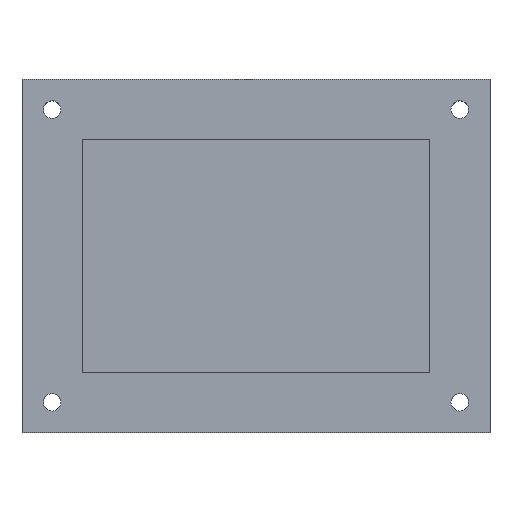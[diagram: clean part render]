
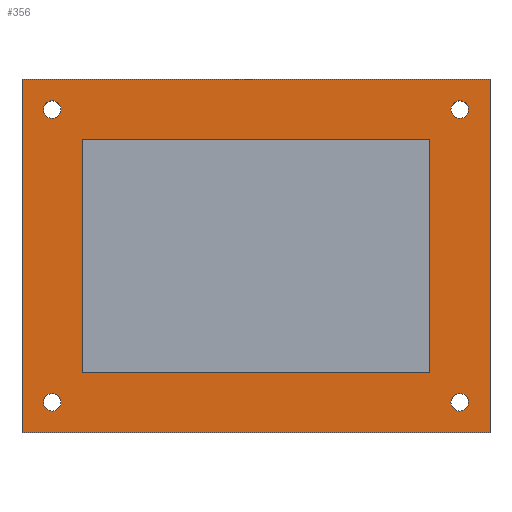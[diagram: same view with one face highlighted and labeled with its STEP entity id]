
A CAD part, top view. The second image highlights one B-rep face of the part: STEP entity #356.
In plain terms, the highlighted planar face has unit normal (0, 0, 1).
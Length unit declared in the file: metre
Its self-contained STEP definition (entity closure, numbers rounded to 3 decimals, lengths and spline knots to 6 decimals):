
#13=CIRCLE('',#381,0.00145);
#15=CIRCLE('',#384,0.00145);
#17=CIRCLE('',#387,0.00145);
#19=CIRCLE('',#390,0.00145);
#80=ORIENTED_EDGE('',*,*,#146,.F.);
#81=ORIENTED_EDGE('',*,*,#122,.T.);
#82=ORIENTED_EDGE('',*,*,#149,.T.);
#83=ORIENTED_EDGE('',*,*,#151,.F.);
#84=ORIENTED_EDGE('',*,*,#141,.F.);
#85=ORIENTED_EDGE('',*,*,#139,.F.);
#86=ORIENTED_EDGE('',*,*,#137,.F.);
#87=ORIENTED_EDGE('',*,*,#135,.F.);
#88=ORIENTED_EDGE('',*,*,#130,.T.);
#89=ORIENTED_EDGE('',*,*,#133,.F.);
#90=ORIENTED_EDGE('',*,*,#114,.F.);
#91=ORIENTED_EDGE('',*,*,#143,.T.);
#114=EDGE_CURVE('',#158,#159,#190,.T.);
#122=EDGE_CURVE('',#167,#166,#198,.T.);
#130=EDGE_CURVE('',#175,#174,#206,.T.);
#133=EDGE_CURVE('',#159,#174,#209,.T.);
#135=EDGE_CURVE('',#177,#177,#13,.T.);
#137=EDGE_CURVE('',#179,#179,#15,.T.);
#139=EDGE_CURVE('',#181,#181,#17,.T.);
#141=EDGE_CURVE('',#183,#183,#19,.T.);
#143=EDGE_CURVE('',#158,#175,#211,.T.);
#146=EDGE_CURVE('',#167,#184,#214,.T.);
#149=EDGE_CURVE('',#166,#187,#217,.T.);
#151=EDGE_CURVE('',#184,#187,#219,.T.);
#158=VERTEX_POINT('',#500);
#159=VERTEX_POINT('',#502);
#166=VERTEX_POINT('',#517);
#167=VERTEX_POINT('',#519);
#174=VERTEX_POINT('',#534);
#175=VERTEX_POINT('',#536);
#177=VERTEX_POINT('',#545);
#179=VERTEX_POINT('',#550);
#181=VERTEX_POINT('',#555);
#183=VERTEX_POINT('',#560);
#184=VERTEX_POINT('',#567);
#187=VERTEX_POINT('',#575);
#190=LINE('',#501,#226);
#198=LINE('',#518,#234);
#206=LINE('',#535,#242);
#209=LINE('',#540,#245);
#211=LINE('',#563,#247);
#214=LINE('',#570,#250);
#217=LINE('',#576,#253);
#219=LINE('',#579,#255);
#226=VECTOR('',#408,1.);
#234=VECTOR('',#418,1.);
#242=VECTOR('',#428,1.);
#245=VECTOR('',#433,1.);
#247=VECTOR('',#461,1.);
#250=VECTOR('',#468,1.);
#253=VECTOR('',#473,1.);
#255=VECTOR('',#477,1.);
#283=EDGE_LOOP('',(#80,#81,#82,#83));
#284=EDGE_LOOP('',(#84));
#285=EDGE_LOOP('',(#85));
#286=EDGE_LOOP('',(#86));
#287=EDGE_LOOP('',(#87));
#288=EDGE_LOOP('',(#88,#89,#90,#91));
#317=FACE_BOUND('',#283,.T.);
#318=FACE_BOUND('',#284,.T.);
#319=FACE_BOUND('',#285,.T.);
#320=FACE_BOUND('',#286,.T.);
#321=FACE_BOUND('',#287,.T.);
#322=FACE_BOUND('',#288,.T.);
#337=PLANE('',#396);
#356=ADVANCED_FACE('',(#317,#318,#319,#320,#321,#322),#337,.T.);
#381=AXIS2_PLACEMENT_3D('',#544,#438,#439);
#384=AXIS2_PLACEMENT_3D('',#549,#444,#445);
#387=AXIS2_PLACEMENT_3D('',#554,#450,#451);
#390=AXIS2_PLACEMENT_3D('',#559,#456,#457);
#396=AXIS2_PLACEMENT_3D('',#580,#478,#479);
#408=DIRECTION('',(1.,0.,0.));
#418=DIRECTION('',(1.,0.,0.));
#428=DIRECTION('',(1.,0.,0.));
#433=DIRECTION('',(0.,-1.,0.));
#438=DIRECTION('',(0.,0.,1.));
#439=DIRECTION('',(1.,0.,0.));
#444=DIRECTION('',(0.,0.,1.));
#445=DIRECTION('',(1.,0.,0.));
#450=DIRECTION('',(0.,0.,1.));
#451=DIRECTION('',(1.,0.,0.));
#456=DIRECTION('',(0.,0.,1.));
#457=DIRECTION('',(1.,0.,0.));
#461=DIRECTION('',(0.,-1.,0.));
#468=DIRECTION('',(0.,-1.,0.));
#473=DIRECTION('',(0.,-1.,0.));
#477=DIRECTION('',(1.,0.,0.));
#478=DIRECTION('',(0.,0.,1.));
#479=DIRECTION('',(1.,0.,0.));
#500=CARTESIAN_POINT('',(-0.049763,0.048744,0.013));
#501=CARTESIAN_POINT('',(0.025137,0.048744,0.013));
#502=CARTESIAN_POINT('',(0.027637,0.048744,0.013));
#517=CARTESIAN_POINT('',(0.017637,0.038744,0.013));
#518=CARTESIAN_POINT('',(-0.011063,0.038744,0.013));
#519=CARTESIAN_POINT('',(-0.039763,0.038744,0.013));
#534=CARTESIAN_POINT('',(0.027637,-0.009656,0.013));
#535=CARTESIAN_POINT('',(-0.011063,-0.009656,0.013));
#536=CARTESIAN_POINT('',(-0.049763,-0.009656,0.013));
#540=CARTESIAN_POINT('',(0.027637,-0.007156,0.013));
#544=CARTESIAN_POINT('',(-0.044763,-0.004656,0.013));
#545=CARTESIAN_POINT('',(-0.043313,-0.004656,0.013));
#549=CARTESIAN_POINT('',(-0.044763,0.043744,0.013));
#550=CARTESIAN_POINT('',(-0.043313,0.043744,0.013));
#554=CARTESIAN_POINT('',(0.022637,0.043744,0.013));
#555=CARTESIAN_POINT('',(0.024087,0.043744,0.013));
#559=CARTESIAN_POINT('',(0.022637,-0.004656,0.013));
#560=CARTESIAN_POINT('',(0.024087,-0.004656,0.013));
#563=CARTESIAN_POINT('',(-0.049763,0.046244,0.013));
#567=CARTESIAN_POINT('',(-0.039763,0.000344,0.013));
#570=CARTESIAN_POINT('',(-0.039763,0.019544,0.013));
#575=CARTESIAN_POINT('',(0.017637,0.000344,0.013));
#576=CARTESIAN_POINT('',(0.017637,0.019544,0.013));
#579=CARTESIAN_POINT('',(-0.011063,0.000344,0.013));
#580=CARTESIAN_POINT('',(-0.011063,0.019544,0.013));
